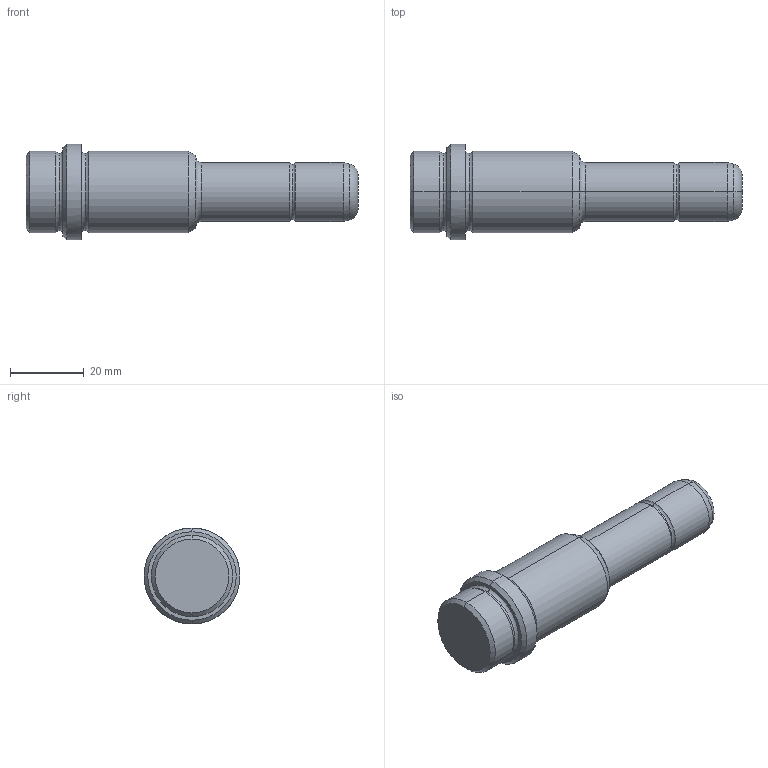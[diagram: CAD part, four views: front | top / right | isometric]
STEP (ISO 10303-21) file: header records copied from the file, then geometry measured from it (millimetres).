
FILE_DESCRIPTION(('CATIA V5 STEP Exchange'),'2;1');
FILE_NAME('C:\Users\Utente\Desktop\IO LAVORO\3D X SITO CF\X SITO\PLASTICA\357\357-16X46X90.stp','2021-08-14T09:05:34+00:00',('none'),('none'),'CATIA Version 5 Release 20 GA (IN-10)','CATIA V5 STEP AP203','none');
FILE_SCHEMA(('CONFIG_CONTROL_DESIGN'));
Length unit declared in the file: millimetre
Products named in the file (1): 357-16X46X90
Bounding box: 90 x 26 x 26 mm (x, y, z)
Volume: 26694.3 mm3; surface area: 6294.3 mm2
Topology: 1 solids, 1 shells, 39 faces, 112 edges, 78 vertices
Faces by surface type: torus 16, cylinder 10, cone 8, plane 5
Entity records: 1404 total; most frequent: CARTESIAN_POINT 342, ORIENTED_EDGE 224, DIRECTION 182, AXIS2_PLACEMENT_3D 126, EDGE_CURVE 112, CIRCLE 86, VERTEX_POINT 78, EDGE_LOOP 42
